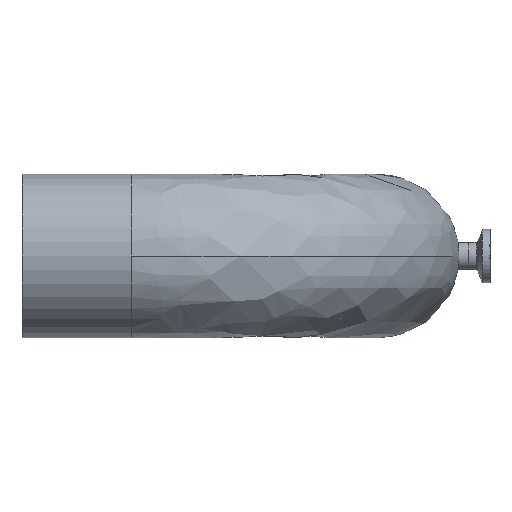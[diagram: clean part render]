
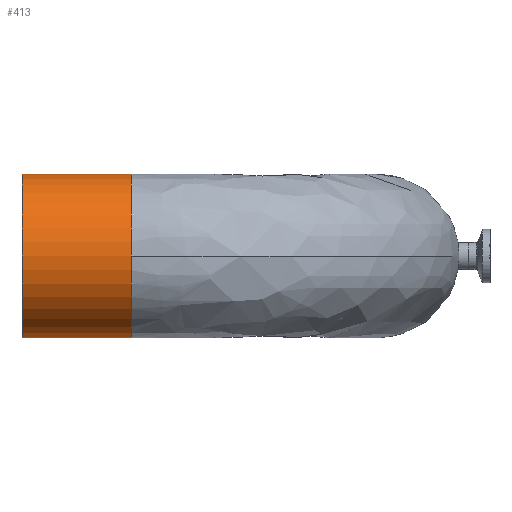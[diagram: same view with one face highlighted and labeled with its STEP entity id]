
A CAD part, left-side view. The second image highlights one B-rep face of the part: STEP entity #413.
In plain terms, the highlighted cylindrical face has radius 38.1 mm (diameter 76.2 mm), a partial arc.
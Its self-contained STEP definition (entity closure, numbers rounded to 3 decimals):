
#14 = FACE_OUTER_BOUND ( 'NONE', #1423, .T. ) ;
#119 = CARTESIAN_POINT ( 'NONE',  ( -114.3, 114.3, 38.1 ) ) ;
#186 = DIRECTION ( 'NONE',  ( 0., 0., 1. ) ) ;
#274 = CIRCLE ( 'NONE', #974, 38.1 ) ;
#303 = DIRECTION ( 'NONE',  ( 0., -1., 0. ) ) ;
#307 = DIRECTION ( 'NONE',  ( 0., -1., 0. ) ) ;
#311 = CARTESIAN_POINT ( 'NONE',  ( -114.3, 165.1, 0. ) ) ;
#394 = CIRCLE ( 'NONE', #1248, 38.1 ) ;
#413 = ADVANCED_FACE ( 'NONE', ( #14 ), #665, .T. ) ;
#480 = VERTEX_POINT ( 'NONE', #680 ) ;
#594 = CARTESIAN_POINT ( 'NONE',  ( -114.3, 165.1, 38.1 ) ) ;
#595 = CARTESIAN_POINT ( 'NONE',  ( -114.3, 114.3, -38.1 ) ) ;
#608 = CARTESIAN_POINT ( 'NONE',  ( -114.3, 114.3, 38.1 ) ) ;
#665 = CYLINDRICAL_SURFACE ( 'NONE', #1438, 38.1 ) ;
#680 = CARTESIAN_POINT ( 'NONE',  ( -152.4, 114.3, 0. ) ) ;
#699 = LINE ( 'NONE', #119, #725 ) ;
#725 = VECTOR ( 'NONE', #1173, 1000. ) ;
#772 = CARTESIAN_POINT ( 'NONE',  ( -114.3, 114.3, 0. ) ) ;
#776 = CARTESIAN_POINT ( 'NONE',  ( -114.3, 114.3, -38.1 ) ) ;
#787 = VERTEX_POINT ( 'NONE', #594 ) ;
#851 = VERTEX_POINT ( 'NONE', #1339 ) ;
#882 = EDGE_CURVE ( 'NONE', #787, #851, #274, .T. ) ;
#885 = CIRCLE ( 'NONE', #1104, 38.1 ) ;
#918 = DIRECTION ( 'NONE',  ( -1., 0., 0. ) ) ;
#974 = AXIS2_PLACEMENT_3D ( 'NONE', #311, #307, #186 ) ;
#1062 = ORIENTED_EDGE ( 'NONE', *, *, #1066, .F. ) ;
#1066 = EDGE_CURVE ( 'NONE', #1287, #851, #1179, .T. ) ;
#1082 = CARTESIAN_POINT ( 'NONE',  ( -114.3, 114.3, 0. ) ) ;
#1086 = VECTOR ( 'NONE', #1366, 1000. ) ;
#1104 = AXIS2_PLACEMENT_3D ( 'NONE', #772, #1639, #918 ) ;
#1119 = VERTEX_POINT ( 'NONE', #608 ) ;
#1173 = DIRECTION ( 'NONE',  ( 0., 1., 0. ) ) ;
#1179 = LINE ( 'NONE', #595, #1086 ) ;
#1214 = DIRECTION ( 'NONE',  ( -1., 0., 0. ) ) ;
#1215 = EDGE_CURVE ( 'NONE', #480, #1287, #885, .T. ) ;
#1221 = ORIENTED_EDGE ( 'NONE', *, *, #1215, .F. ) ;
#1243 = ORIENTED_EDGE ( 'NONE', *, *, #1549, .F. ) ;
#1248 = AXIS2_PLACEMENT_3D ( 'NONE', #1082, #303, #1214 ) ;
#1275 = DIRECTION ( 'NONE',  ( 0., 1., 0. ) ) ;
#1287 = VERTEX_POINT ( 'NONE', #776 ) ;
#1296 = EDGE_CURVE ( 'NONE', #1119, #787, #699, .T. ) ;
#1318 = ORIENTED_EDGE ( 'NONE', *, *, #1296, .T. ) ;
#1320 = ORIENTED_EDGE ( 'NONE', *, *, #882, .T. ) ;
#1339 = CARTESIAN_POINT ( 'NONE',  ( -114.3, 165.1, -38.1 ) ) ;
#1366 = DIRECTION ( 'NONE',  ( 0., 1., 0. ) ) ;
#1423 = EDGE_LOOP ( 'NONE', ( #1062, #1221, #1243, #1318, #1320 ) ) ;
#1438 = AXIS2_PLACEMENT_3D ( 'NONE', #1627, #1275, #1542 ) ;
#1542 = DIRECTION ( 'NONE',  ( 0., 0., 1. ) ) ;
#1549 = EDGE_CURVE ( 'NONE', #1119, #480, #394, .T. ) ;
#1627 = CARTESIAN_POINT ( 'NONE',  ( -114.3, 114.3, 0. ) ) ;
#1639 = DIRECTION ( 'NONE',  ( 0., -1., 0. ) ) ;
